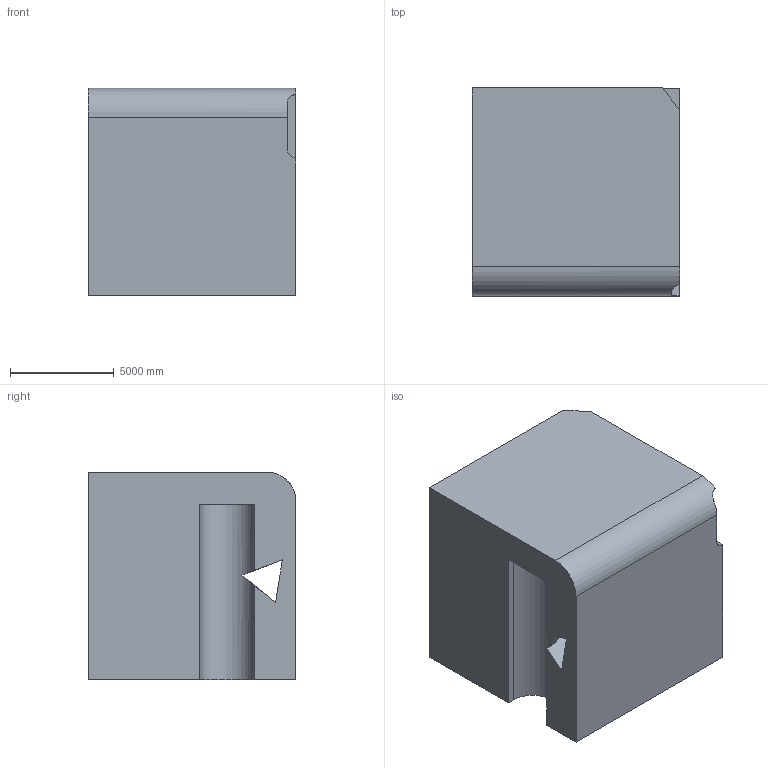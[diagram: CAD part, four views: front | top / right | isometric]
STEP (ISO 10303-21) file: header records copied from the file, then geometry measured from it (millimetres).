
FILE_DESCRIPTION (( 'STEP AP203' ), '1' );
FILE_NAME ('58.STEP', '2022-09-01T11:50:00', ( 'user' ), ( '' ), 'SwSTEP 2.0', 'SolidWorks 2021', '' );
FILE_SCHEMA (( 'CONFIG_CONTROL_DESIGN' ));
Length unit declared in the file: centimetre
Products named in the file (1): 58
Bounding box: 10000 x 10000 x 10000 mm (x, y, z)
Volume: 930848174438.4 mm3; surface area: 689864756.7 mm2
Topology: 1 solids, 1 shells, 25 faces, 69 edges, 46 vertices
Faces by surface type: plane 21, cylinder 4
Entity records: 925 total; most frequent: CARTESIAN_POINT 202, ORIENTED_EDGE 138, DIRECTION 126, EDGE_CURVE 69, VECTOR 58, LINE 58, VERTEX_POINT 46, AXIS2_PLACEMENT_3D 34
